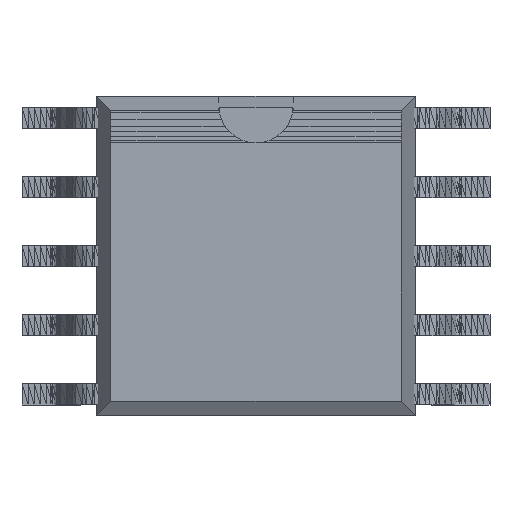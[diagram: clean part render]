
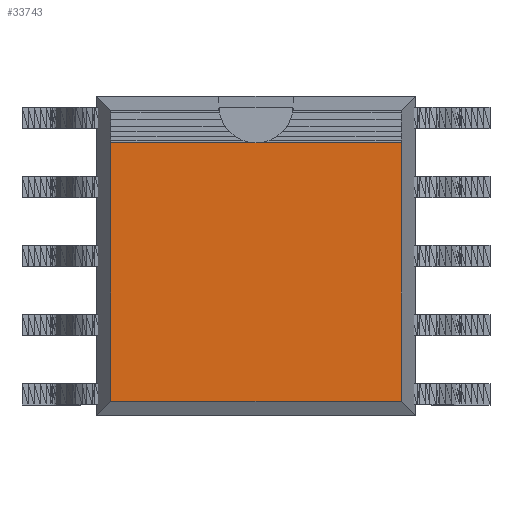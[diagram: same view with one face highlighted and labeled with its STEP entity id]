
A CAD part, top view. The second image highlights one B-rep face of the part: STEP entity #33743.
In plain terms, the highlighted planar face has unit normal (0, 0, 1).
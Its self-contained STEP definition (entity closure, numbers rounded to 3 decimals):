
#32786 = CARTESIAN_POINT('',(-1.365,-1.365,1.305));
#32787 = VERTEX_POINT('',#32786);
#32788 = CARTESIAN_POINT('',(-1.365,1.063,1.305));
#32789 = VERTEX_POINT('',#32788);
#32815 = DIRECTION('',(0.,1.,0.));
#32816 = VECTOR('',#32815,1.);
#32817 = LINE('',#32786,#32816);
#32818 = EDGE_CURVE('',#32787,#32789,#32817,.T.);
#32868 = CARTESIAN_POINT('',(1.365,-1.365,1.305));
#32869 = VERTEX_POINT('',#32868);
#32875 = DIRECTION('',(1.,0.,0.));
#32876 = VECTOR('',#32875,1.);
#32877 = LINE('',#32786,#32876);
#32878 = EDGE_CURVE('',#32787,#32869,#32877,.T.);
#32906 = CARTESIAN_POINT('',(1.365,1.063,1.305));
#32907 = VERTEX_POINT('',#32906);
#32953 = DIRECTION('',(0.,1.,0.));
#32954 = VECTOR('',#32953,1.);
#32955 = LINE('',#32868,#32954);
#32956 = EDGE_CURVE('',#32869,#32907,#32955,.T.);
#33233 = CARTESIAN_POINT('',(0.,1.063,1.305));
#33234 = VERTEX_POINT('',#33233);
#33700 = DIRECTION('',(1.,0.,0.));
#33701 = VECTOR('',#33700,1.);
#33702 = LINE('',#33233,#33701);
#33703 = EDGE_CURVE('',#33234,#32907,#33702,.T.);
#33716 = DIRECTION('',(1.,0.,0.));
#33717 = VECTOR('',#33716,1.);
#33718 = LINE('',#32788,#33717);
#33719 = EDGE_CURVE('',#32789,#33234,#33718,.T.);
#33731 = ORIENTED_EDGE('',*,*,#32818,.F.);
#33732 = ORIENTED_EDGE('',*,*,#32878,.T.);
#33733 = ORIENTED_EDGE('',*,*,#32956,.T.);
#33734 = ORIENTED_EDGE('',*,*,#33703,.F.);
#33735 = ORIENTED_EDGE('',*,*,#33719,.F.);
#33736 = CARTESIAN_POINT('',(-1.365,1.063,1.305));
#33737 = DIRECTION('',(0.,0.,1.));
#33738 = DIRECTION('',(0.,-1.,0.));
#33739 = AXIS2_PLACEMENT_3D('',#33736,#33737,#33738);
#33740 = PLANE('',#33739);
#33741 = EDGE_LOOP('',(#33731,#33732,#33733,#33734,#33735));
#33742 = FACE_OUTER_BOUND('',#33741,.T.);
#33743 = ADVANCED_FACE('',(#33742),#33740,.T.);
